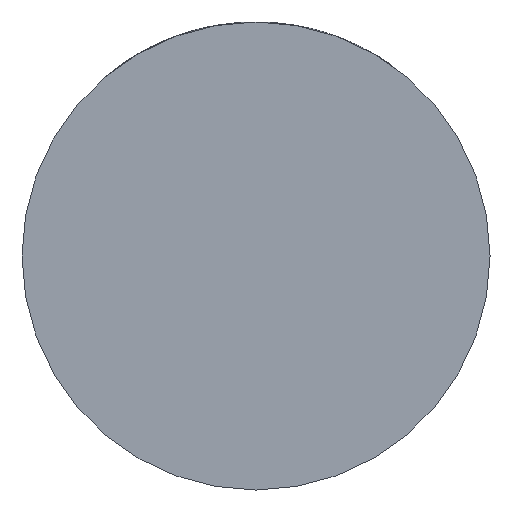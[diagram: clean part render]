
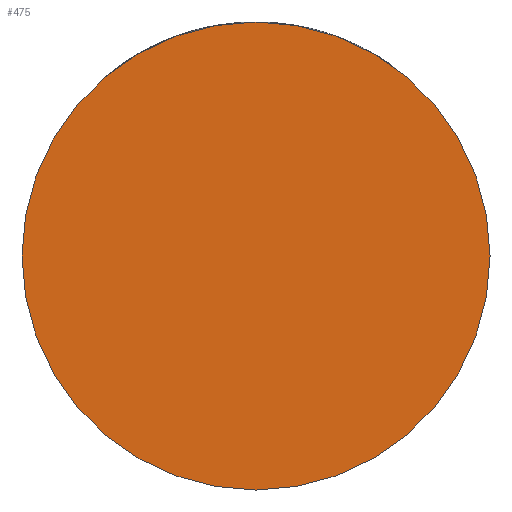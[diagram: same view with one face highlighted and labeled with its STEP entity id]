
A CAD part, front view. The second image highlights one B-rep face of the part: STEP entity #475.
In plain terms, the highlighted planar face has unit normal (0, -1, 0).
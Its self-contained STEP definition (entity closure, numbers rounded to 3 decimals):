
#129 = CARTESIAN_POINT ( 'NONE',  ( 39., -36., 0. ) ) ;
#273 = DIRECTION ( 'NONE',  ( 1., 0., 0. ) ) ;
#334 = EDGE_CURVE ( 'NONE', #2366, #3426, #3302, .T. ) ;
#475 = ADVANCED_FACE ( 'NONE', ( #662 ), #4236, .T. ) ;
#662 = FACE_OUTER_BOUND ( 'NONE', #2512, .T. ) ;
#1976 = ORIENTED_EDGE ( 'NONE', *, *, #334, .T. ) ;
#2109 = CARTESIAN_POINT ( 'NONE',  ( -39., -36., 0. ) ) ;
#2284 = AXIS2_PLACEMENT_3D ( 'NONE', #2506, #3916, #3548 ) ;
#2345 = CIRCLE ( 'NONE', #4039, 39. ) ;
#2366 = VERTEX_POINT ( 'NONE', #2109 ) ;
#2506 = CARTESIAN_POINT ( 'NONE',  ( 0., -36., 0. ) ) ;
#2512 = EDGE_LOOP ( 'NONE', ( #1976, #3427 ) ) ;
#2827 = CARTESIAN_POINT ( 'NONE',  ( 0., -36., 0. ) ) ;
#2926 = EDGE_CURVE ( 'NONE', #3426, #2366, #2345, .T. ) ;
#3060 = CARTESIAN_POINT ( 'NONE',  ( 0., -36., 0. ) ) ;
#3302 = CIRCLE ( 'NONE', #2284, 39. ) ;
#3426 = VERTEX_POINT ( 'NONE', #129 ) ;
#3427 = ORIENTED_EDGE ( 'NONE', *, *, #2926, .T. ) ;
#3548 = DIRECTION ( 'NONE',  ( 1., 0., 0. ) ) ;
#3807 = DIRECTION ( 'NONE',  ( 1., 0., 0. ) ) ;
#3889 = DIRECTION ( 'NONE',  ( 0., -1., 0. ) ) ;
#3916 = DIRECTION ( 'NONE',  ( 0., -1., 0. ) ) ;
#4039 = AXIS2_PLACEMENT_3D ( 'NONE', #3060, #4110, #273 ) ;
#4110 = DIRECTION ( 'NONE',  ( 0., -1., 0. ) ) ;
#4236 = PLANE ( 'NONE',  #4510 ) ;
#4510 = AXIS2_PLACEMENT_3D ( 'NONE', #2827, #3889, #3807 ) ;
